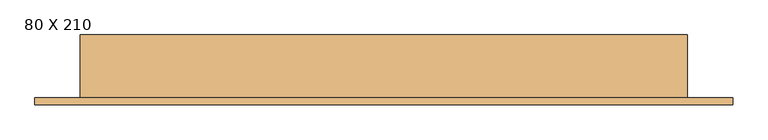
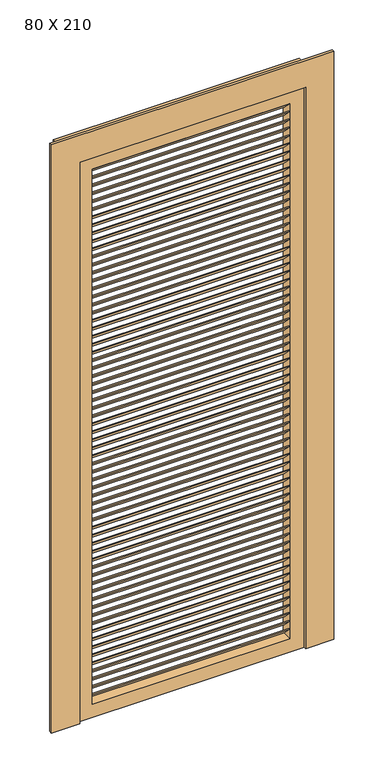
"""IFC4 building model written with IfcOpenShell, lengths in millimetres: door geometry, PORTA VENEZIANA DE ABRIR PARA FORA - 1 FOLHA : 80 X 210."""

import ifcopenshell
import ifcopenshell.guid

model = None  # the IFC model being written
_history = None  # IfcOwnerHistory: only IFC2X3 demands one
_inside = {}  # id of a spatial element -> (the spatial element, [elements in it])
_under = {}  # id of a project, library or spatial element -> (it, [spatial elements below it])
_declared = {}  # id of a project -> (the project, [libraries it declares])
_typed = {}  # id of a type object -> (the type object, [elements of that type])
_made_of = {}  # id of a material, layer set ... -> (it, [elements and type objects made of it])


def new_model(schema):
    """Start an empty IFC model of exactly this schema.

    Asked for "IFC4X3", IfcOpenShell would pick the latest addendum, in which some entities
    have other attributes; the version numbers below select the first issue.
    IFC2X3 requires an IfcOwnerHistory on every rooted entity: one is made here for all.
    """
    global model, _history
    if schema == "IFC4X3":
        model = ifcopenshell.file(schema_version=(4, 3, 0, 0))
    else:
        model = ifcopenshell.file(schema=schema)
    _inside.clear()
    _under.clear()
    _declared.clear()
    _typed.clear()
    _made_of.clear()
    _history = None
    if model.schema == "IFC2X3":
        org = make("IfcOrganization", Name="unknown")
        user = make(
            "IfcPersonAndOrganization",
            ThePerson=make("IfcPerson", FamilyName="unknown"),
            TheOrganization=org,
        )
        app = make(
            "IfcApplication",
            ApplicationDeveloper=org,
            Version="unknown",
            ApplicationFullName="unknown",
            ApplicationIdentifier="unknown",
        )
        _history = make(
            "IfcOwnerHistory",
            OwningUser=user,
            OwningApplication=app,
            ChangeAction="ADDED",
            CreationDate=0,
        )
    return model


def make(cls, **values):
    """One entity of the class cls with the attributes given. An attribute that is None is left unset."""
    return model.create_entity(
        cls, **{name: value for name, value in values.items() if value is not None}
    )


def rooted(cls, **values):
    """An entity with a GlobalId (a new one), such as an element, a storey or a relation."""
    return make(cls, GlobalId=ifcopenshell.guid.new(), OwnerHistory=_history, **values)


def si_unit(unit_type, name, prefix=None):
    """IfcSIUnit, for example si_unit("LENGTHUNIT", "METRE", prefix="MILLI")."""
    return make("IfcSIUnit", UnitType=unit_type, Prefix=prefix, Name=name)


def assignment(units):
    """IfcUnitAssignment: the units of a project."""
    return None if units is None else make("IfcUnitAssignment", Units=units)


def point(xyz):
    """IfcCartesianPoint."""
    return None if xyz is None else make("IfcCartesianPoint", Coordinates=xyz)


def direction(xyz):
    """IfcDirection."""
    return None if xyz is None else make("IfcDirection", DirectionRatios=xyz)


def frame(location, z_axis=None, x_axis=None):
    """IfcAxis2Placement3D, a coordinate frame: its origin and axes. An axis left out is left unset."""
    return make(
        "IfcAxis2Placement3D",
        Location=point(location),
        Axis=direction(z_axis),
        RefDirection=direction(x_axis),
    )


def origin():
    """The frame at (0, 0, 0) with its axes left unset."""
    return frame((0.0, 0.0, 0.0))


def place(relative_to, where):
    """IfcLocalPlacement: puts the frame where relative to a parent placement (None: the world)."""
    return make(
        "IfcLocalPlacement", PlacementRelTo=relative_to, RelativePlacement=where
    )


def context(
    kind, dimensions, precision=None, world=None, true_north=None, identifier=None
):
    """IfcGeometricRepresentationContext, for example the 3D "Model" context."""
    return make(
        "IfcGeometricRepresentationContext",
        ContextIdentifier=identifier,
        ContextType=kind,
        CoordinateSpaceDimension=dimensions,
        Precision=precision,
        WorldCoordinateSystem=world,
        TrueNorth=true_north,
    )


def project(units=None, contexts=None):
    """IfcProject with its units and contexts."""
    return rooted(
        "IfcProject",
        Name="project",
        RepresentationContexts=contexts,
        UnitsInContext=assignment(units),
    )


def spatial(cls, under=None, at=None, **own):
    """A site, building, storey or space (cls), placed at a placement, below another one or the project."""
    s = rooted(cls, ObjectPlacement=at, **own)
    if under is not None:
        _under.setdefault(under.id(), (under, []))[1].append(s)
    return s


def polyline(points):
    """IfcPolyline through the points."""
    return make("IfcPolyline", Points=[point(p) for p in points])


def outline(outer, holes=None, kind="AREA"):
    """IfcArbitraryClosedProfileDef: a profile drawn as a closed curve; with holes, ...WithVoids."""
    if holes is None:
        return make("IfcArbitraryClosedProfileDef", ProfileType=kind, OuterCurve=outer)
    return make(
        "IfcArbitraryProfileDefWithVoids",
        ProfileType=kind,
        OuterCurve=outer,
        InnerCurves=holes,
    )


def extrude(swept, where, along, depth):
    """IfcExtrudedAreaSolid: the profile swept, set in the frame where, extruded along a direction by depth."""
    return make(
        "IfcExtrudedAreaSolid",
        SweptArea=swept,
        Position=where,
        ExtrudedDirection=direction(along),
        Depth=depth,
    )


def shape(context_of_items, identifier, shape_type, items):
    """IfcShapeRepresentation: the items that make up one representation, for example the "Body"."""
    return make(
        "IfcShapeRepresentation",
        ContextOfItems=context_of_items,
        RepresentationIdentifier=identifier,
        RepresentationType=shape_type,
        Items=items,
    )


def source(mapping_origin, context_of_items, identifier, shape_type, items):
    """IfcRepresentationMap: a shape defined once, which mapped items show again and again."""
    return make(
        "IfcRepresentationMap",
        MappingOrigin=mapping_origin,
        MappedRepresentation=shape(context_of_items, identifier, shape_type, items),
    )


def transform(
    local_origin,
    x_axis=None,
    y_axis=None,
    z_axis=None,
    scale=None,
    scale2=None,
    scale3=None,
    uniform=True,
):
    """IfcCartesianTransformationOperator3D, or its non-uniform kind. x_axis, y_axis, z_axis: its Axis1, 2, 3."""
    if uniform:
        return make(
            "IfcCartesianTransformationOperator3D",
            Axis1=direction(x_axis),
            Axis2=direction(y_axis),
            LocalOrigin=point(local_origin),
            Scale=scale,
            Axis3=direction(z_axis),
        )
    return make(
        "IfcCartesianTransformationOperator3DnonUniform",
        Axis1=direction(x_axis),
        Axis2=direction(y_axis),
        LocalOrigin=point(local_origin),
        Scale=scale,
        Axis3=direction(z_axis),
        Scale2=scale2,
        Scale3=scale3,
    )


def mapped(mapping_source, mapping_target):
    """IfcMappedItem: shows the shape of a source again, moved by a transform."""
    return make(
        "IfcMappedItem", MappingSource=mapping_source, MappingTarget=mapping_target
    )


def made_of(thing, what):
    """Note that an element or type object is made of a material, layer set ...; save() writes the relation."""
    if what is not None:
        _made_of.setdefault(what.id(), (what, []))[1].append(thing)
    return thing


def element(
    cls,
    number,
    at=None,
    inside=None,
    cuts=None,
    type_object=None,
    material=None,
    context=None,
    identifier="Body",
    shape_type=None,
    held_by="IfcProductDefinitionShape",
    body=None,
    shapes=None,
    **own,
):
    """One element of the class cls, such as IfcWall. Its Tag is "e" and its number.

    at: its placement. inside: the storey or other place that contains it. cuts: it is an
    opening in that element (IfcRelVoidsElement). A single representation is given by context,
    identifier, shape_type and body (its items); several are given by shapes. held_by: the class
    of the entity that holds the representations. save() writes the other relations.
    """
    e = rooted(cls, Tag="e%d" % number, ObjectPlacement=at, **own)
    if body is not None:
        shapes = [shape(context, identifier, shape_type, body)]
    if shapes is not None:
        e.Representation = make(held_by, Representations=shapes)
    if inside is not None:
        _inside.setdefault(inside.id(), (inside, []))[1].append(e)
    if cuts is not None:
        rooted(
            "IfcRelVoidsElement", RelatingBuildingElement=cuts, RelatedOpeningElement=e
        )
    if type_object is not None:
        _typed.setdefault(type_object.id(), (type_object, []))[1].append(e)
    return made_of(e, material)


def aggregate(whole, parts):
    """IfcRelAggregates: a whole, such as a stair, and the parts it consists of."""
    return rooted("IfcRelAggregates", RelatingObject=whole, RelatedObjects=parts)


def save(model, path):
    """Write the relations noted so far, then the file.

    IfcRelAggregates (storeys below a building ...), IfcRelContainedInSpatialStructure (elements
    in a storey), IfcRelDefinesByType, IfcRelAssociatesMaterial and IfcRelDeclares: one each for
    every whole, place, type object, material and project.
    """
    for whole, parts in _under.values():
        aggregate(whole, parts)
    for where, things in _inside.values():
        rooted(
            "IfcRelContainedInSpatialStructure",
            RelatedElements=things,
            RelatingStructure=where,
        )
    for kind, things in _typed.values():
        rooted("IfcRelDefinesByType", RelatedObjects=things, RelatingType=kind)
    for what, things in _made_of.values():
        rooted("IfcRelAssociatesMaterial", RelatedObjects=things, RelatingMaterial=what)
    for by, libraries in _declared.values():
        rooted("IfcRelDeclares", RelatingContext=by, RelatedDefinitions=libraries)
    model.write(path)


def door_80_x_210_b93372b0(model_context):
    return source(origin(), model_context, "Body", "SweptSolid", [
        extrude(outline(polyline([(-40.0, 1985.2272727), (-75.0, 2020.2272727), (-70.0, 2020.2272727), (-35.0, 1985.2272727), (-40.0, 1985.2272727)])), frame((-270.0, 0.0, 0.0), z_axis=(1.0, 0.0, 0.0), x_axis=(0.0, 1.0, 0.0)), (0.0, 0.0, 1.0), 700.0),
        extrude(outline(polyline([(-40.0, 1955.4545455), (-75.0, 1990.4545455), (-70.0, 1990.4545455), (-35.0, 1955.4545455), (-40.0, 1955.4545455)])), frame((-270.0, 0.0, 0.0), z_axis=(1.0, 0.0, 0.0), x_axis=(0.0, 1.0, 0.0)), (0.0, 0.0, 1.0), 700.0),
        extrude(outline(polyline([(-40.0, 1925.6818182), (-75.0, 1960.6818182), (-70.0, 1960.6818182), (-35.0, 1925.6818182), (-40.0, 1925.6818182)])), frame((-270.0, 0.0, 0.0), z_axis=(1.0, 0.0, 0.0), x_axis=(0.0, 1.0, 0.0)), (0.0, 0.0, 1.0), 700.0),
        extrude(outline(polyline([(-40.0, 1895.9090909), (-75.0, 1930.9090909), (-70.0, 1930.9090909), (-35.0, 1895.9090909), (-40.0, 1895.9090909)])), frame((-270.0, 0.0, 0.0), z_axis=(1.0, 0.0, 0.0), x_axis=(0.0, 1.0, 0.0)), (0.0, 0.0, 1.0), 700.0),
        extrude(outline(polyline([(-40.0, 1866.1363636), (-75.0, 1901.1363636), (-70.0, 1901.1363636), (-35.0, 1866.1363636), (-40.0, 1866.1363636)])), frame((-270.0, 0.0, 0.0), z_axis=(1.0, 0.0, 0.0), x_axis=(0.0, 1.0, 0.0)), (0.0, 0.0, 1.0), 700.0),
        extrude(outline(polyline([(-40.0, 1836.3636364), (-75.0, 1871.3636364), (-70.0, 1871.3636364), (-35.0, 1836.3636364), (-40.0, 1836.3636364)])), frame((-270.0, 0.0, 0.0), z_axis=(1.0, 0.0, 0.0), x_axis=(0.0, 1.0, 0.0)), (0.0, 0.0, 1.0), 700.0),
        extrude(outline(polyline([(-40.0, 1806.5909091), (-75.0, 1841.5909091), (-70.0, 1841.5909091), (-35.0, 1806.5909091), (-40.0, 1806.5909091)])), frame((-270.0, 0.0, 0.0), z_axis=(1.0, 0.0, 0.0), x_axis=(0.0, 1.0, 0.0)), (0.0, 0.0, 1.0), 700.0),
        extrude(outline(polyline([(-40.0, 1776.8181818), (-75.0, 1811.8181818), (-70.0, 1811.8181818), (-35.0, 1776.8181818), (-40.0, 1776.8181818)])), frame((-270.0, 0.0, 0.0), z_axis=(1.0, 0.0, 0.0), x_axis=(0.0, 1.0, 0.0)), (0.0, 0.0, 1.0), 700.0),
        extrude(outline(polyline([(-40.0, 1747.0454545), (-75.0, 1782.0454545), (-70.0, 1782.0454545), (-35.0, 1747.0454545), (-40.0, 1747.0454545)])), frame((-270.0, 0.0, 0.0), z_axis=(1.0, 0.0, 0.0), x_axis=(0.0, 1.0, 0.0)), (0.0, 0.0, 1.0), 700.0),
        extrude(outline(polyline([(-40.0, 1717.2727273), (-75.0, 1752.2727273), (-70.0, 1752.2727273), (-35.0, 1717.2727273), (-40.0, 1717.2727273)])), frame((-270.0, 0.0, 0.0), z_axis=(1.0, 0.0, 0.0), x_axis=(0.0, 1.0, 0.0)), (0.0, 0.0, 1.0), 700.0),
        extrude(outline(polyline([(-40.0, 1687.5), (-75.0, 1722.5), (-70.0, 1722.5), (-35.0, 1687.5), (-40.0, 1687.5)])), frame((-270.0, 0.0, 0.0), z_axis=(1.0, 0.0, 0.0), x_axis=(0.0, 1.0, 0.0)), (0.0, 0.0, 1.0), 700.0),
        extrude(outline(polyline([(-40.0, 1657.7272727), (-75.0, 1692.7272727), (-70.0, 1692.7272727), (-35.0, 1657.7272727), (-40.0, 1657.7272727)])), frame((-270.0, 0.0, 0.0), z_axis=(1.0, 0.0, 0.0), x_axis=(0.0, 1.0, 0.0)), (0.0, 0.0, 1.0), 700.0),
        extrude(outline(polyline([(-40.0, 1627.9545455), (-75.0, 1662.9545455), (-70.0, 1662.9545455), (-35.0, 1627.9545455), (-40.0, 1627.9545455)])), frame((-270.0, 0.0, 0.0), z_axis=(1.0, 0.0, 0.0), x_axis=(0.0, 1.0, 0.0)), (0.0, 0.0, 1.0), 700.0),
        extrude(outline(polyline([(-40.0, 1598.1818182), (-75.0, 1633.1818182), (-70.0, 1633.1818182), (-35.0, 1598.1818182), (-40.0, 1598.1818182)])), frame((-270.0, 0.0, 0.0), z_axis=(1.0, 0.0, 0.0), x_axis=(0.0, 1.0, 0.0)), (0.0, 0.0, 1.0), 700.0),
        extrude(outline(polyline([(-40.0, 1568.4090909), (-75.0, 1603.4090909), (-70.0, 1603.4090909), (-35.0, 1568.4090909), (-40.0, 1568.4090909)])), frame((-270.0, 0.0, 0.0), z_axis=(1.0, 0.0, 0.0), x_axis=(0.0, 1.0, 0.0)), (0.0, 0.0, 1.0), 700.0),
        extrude(outline(polyline([(-40.0, 1538.6363636), (-75.0, 1573.6363636), (-70.0, 1573.6363636), (-35.0, 1538.6363636), (-40.0, 1538.6363636)])), frame((-270.0, 0.0, 0.0), z_axis=(1.0, 0.0, 0.0), x_axis=(0.0, 1.0, 0.0)), (0.0, 0.0, 1.0), 700.0),
        extrude(outline(polyline([(-40.0, 1508.8636364), (-75.0, 1543.8636364), (-70.0, 1543.8636364), (-35.0, 1508.8636364), (-40.0, 1508.8636364)])), frame((-270.0, 0.0, 0.0), z_axis=(1.0, 0.0, 0.0), x_axis=(0.0, 1.0, 0.0)), (0.0, 0.0, 1.0), 700.0),
        extrude(outline(polyline([(-40.0, 1479.0909091), (-75.0, 1514.0909091), (-70.0, 1514.0909091), (-35.0, 1479.0909091), (-40.0, 1479.0909091)])), frame((-270.0, 0.0, 0.0), z_axis=(1.0, 0.0, 0.0), x_axis=(0.0, 1.0, 0.0)), (0.0, 0.0, 1.0), 700.0),
        extrude(outline(polyline([(-40.0, 1449.3181818), (-75.0, 1484.3181818), (-70.0, 1484.3181818), (-35.0, 1449.3181818), (-40.0, 1449.3181818)])), frame((-270.0, 0.0, 0.0), z_axis=(1.0, 0.0, 0.0), x_axis=(0.0, 1.0, 0.0)), (0.0, 0.0, 1.0), 700.0),
        extrude(outline(polyline([(-40.0, 1419.5454545), (-75.0, 1454.5454545), (-70.0, 1454.5454545), (-35.0, 1419.5454545), (-40.0, 1419.5454545)])), frame((-270.0, 0.0, 0.0), z_axis=(1.0, 0.0, 0.0), x_axis=(0.0, 1.0, 0.0)), (0.0, 0.0, 1.0), 700.0),
        extrude(outline(polyline([(-40.0, 1389.7727273), (-75.0, 1424.7727273), (-70.0, 1424.7727273), (-35.0, 1389.7727273), (-40.0, 1389.7727273)])), frame((-270.0, 0.0, 0.0), z_axis=(1.0, 0.0, 0.0), x_axis=(0.0, 1.0, 0.0)), (0.0, 0.0, 1.0), 700.0),
        extrude(outline(polyline([(-40.0, 1360.0), (-75.0, 1395.0), (-70.0, 1395.0), (-35.0, 1360.0), (-40.0, 1360.0)])), frame((-270.0, 0.0, 0.0), z_axis=(1.0, 0.0, 0.0), x_axis=(0.0, 1.0, 0.0)), (0.0, 0.0, 1.0), 700.0),
        extrude(outline(polyline([(-40.0, 1330.2272727), (-75.0, 1365.2272727), (-70.0, 1365.2272727), (-35.0, 1330.2272727), (-40.0, 1330.2272727)])), frame((-270.0, 0.0, 0.0), z_axis=(1.0, 0.0, 0.0), x_axis=(0.0, 1.0, 0.0)), (0.0, 0.0, 1.0), 700.0),
        extrude(outline(polyline([(-40.0, 1300.4545455), (-75.0, 1335.4545455), (-70.0, 1335.4545455), (-35.0, 1300.4545455), (-40.0, 1300.4545455)])), frame((-270.0, 0.0, 0.0), z_axis=(1.0, 0.0, 0.0), x_axis=(0.0, 1.0, 0.0)), (0.0, 0.0, 1.0), 700.0),
        extrude(outline(polyline([(-40.0, 1270.6818182), (-75.0, 1305.6818182), (-70.0, 1305.6818182), (-35.0, 1270.6818182), (-40.0, 1270.6818182)])), frame((-270.0, 0.0, 0.0), z_axis=(1.0, 0.0, 0.0), x_axis=(0.0, 1.0, 0.0)), (0.0, 0.0, 1.0), 700.0),
        extrude(outline(polyline([(-40.0, 1240.9090909), (-75.0, 1275.9090909), (-70.0, 1275.9090909), (-35.0, 1240.9090909), (-40.0, 1240.9090909)])), frame((-270.0, 0.0, 0.0), z_axis=(1.0, 0.0, 0.0), x_axis=(0.0, 1.0, 0.0)), (0.0, 0.0, 1.0), 700.0),
        extrude(outline(polyline([(-40.0, 1211.1363636), (-75.0, 1246.1363636), (-70.0, 1246.1363636), (-35.0, 1211.1363636), (-40.0, 1211.1363636)])), frame((-270.0, 0.0, 0.0), z_axis=(1.0, 0.0, 0.0), x_axis=(0.0, 1.0, 0.0)), (0.0, 0.0, 1.0), 700.0),
        extrude(outline(polyline([(-40.0, 1181.3636364), (-75.0, 1216.3636364), (-70.0, 1216.3636364), (-35.0, 1181.3636364), (-40.0, 1181.3636364)])), frame((-270.0, 0.0, 0.0), z_axis=(1.0, 0.0, 0.0), x_axis=(0.0, 1.0, 0.0)), (0.0, 0.0, 1.0), 700.0),
        extrude(outline(polyline([(-40.0, 1151.5909091), (-75.0, 1186.5909091), (-70.0, 1186.5909091), (-35.0, 1151.5909091), (-40.0, 1151.5909091)])), frame((-270.0, 0.0, 0.0), z_axis=(1.0, 0.0, 0.0), x_axis=(0.0, 1.0, 0.0)), (0.0, 0.0, 1.0), 700.0),
        extrude(outline(polyline([(-40.0, 1121.8181818), (-75.0, 1156.8181818), (-70.0, 1156.8181818), (-35.0, 1121.8181818), (-40.0, 1121.8181818)])), frame((-270.0, 0.0, 0.0), z_axis=(1.0, 0.0, 0.0), x_axis=(0.0, 1.0, 0.0)), (0.0, 0.0, 1.0), 700.0),
        extrude(outline(polyline([(-40.0, 1092.0454545), (-75.0, 1127.0454545), (-70.0, 1127.0454545), (-35.0, 1092.0454545), (-40.0, 1092.0454545)])), frame((-270.0, 0.0, 0.0), z_axis=(1.0, 0.0, 0.0), x_axis=(0.0, 1.0, 0.0)), (0.0, 0.0, 1.0), 700.0),
        extrude(outline(polyline([(-40.0, 1062.2727273), (-75.0, 1097.2727273), (-70.0, 1097.2727273), (-35.0, 1062.2727273), (-40.0, 1062.2727273)])), frame((-270.0, 0.0, 0.0), z_axis=(1.0, 0.0, 0.0), x_axis=(0.0, 1.0, 0.0)), (0.0, 0.0, 1.0), 700.0),
        extrude(outline(polyline([(-40.0, 1032.5), (-75.0, 1067.5), (-70.0, 1067.5), (-35.0, 1032.5), (-40.0, 1032.5)])), frame((-270.0, 0.0, 0.0), z_axis=(1.0, 0.0, 0.0), x_axis=(0.0, 1.0, 0.0)), (0.0, 0.0, 1.0), 700.0),
        extrude(outline(polyline([(-40.0, 1002.7272727), (-75.0, 1037.7272727), (-70.0, 1037.7272727), (-35.0, 1002.7272727), (-40.0, 1002.7272727)])), frame((-270.0, 0.0, 0.0), z_axis=(1.0, 0.0, 0.0), x_axis=(0.0, 1.0, 0.0)), (0.0, 0.0, 1.0), 700.0),
        extrude(outline(polyline([(-40.0, 972.9545455), (-75.0, 1007.9545455), (-70.0, 1007.9545455), (-35.0, 972.9545455), (-40.0, 972.9545455)])), frame((-270.0, 0.0, 0.0), z_axis=(1.0, 0.0, 0.0), x_axis=(0.0, 1.0, 0.0)), (0.0, 0.0, 1.0), 700.0),
        extrude(outline(polyline([(-40.0, 943.1818182), (-75.0, 978.1818182), (-70.0, 978.1818182), (-35.0, 943.1818182), (-40.0, 943.1818182)])), frame((-270.0, 0.0, 0.0), z_axis=(1.0, 0.0, 0.0), x_axis=(0.0, 1.0, 0.0)), (0.0, 0.0, 1.0), 700.0),
        extrude(outline(polyline([(-40.0, 913.4090909), (-75.0, 948.4090909), (-70.0, 948.4090909), (-35.0, 913.4090909), (-40.0, 913.4090909)])), frame((-270.0, 0.0, 0.0), z_axis=(1.0, 0.0, 0.0), x_axis=(0.0, 1.0, 0.0)), (0.0, 0.0, 1.0), 700.0),
        extrude(outline(polyline([(-40.0, 883.6363636), (-75.0, 918.6363636), (-70.0, 918.6363636), (-35.0, 883.6363636), (-40.0, 883.6363636)])), frame((-270.0, 0.0, 0.0), z_axis=(1.0, 0.0, 0.0), x_axis=(0.0, 1.0, 0.0)), (0.0, 0.0, 1.0), 700.0),
        extrude(outline(polyline([(-40.0, 853.8636364), (-75.0, 888.8636364), (-70.0, 888.8636364), (-35.0, 853.8636364), (-40.0, 853.8636364)])), frame((-270.0, 0.0, 0.0), z_axis=(1.0, 0.0, 0.0), x_axis=(0.0, 1.0, 0.0)), (0.0, 0.0, 1.0), 700.0),
        extrude(outline(polyline([(-40.0, 824.0909091), (-75.0, 859.0909091), (-70.0, 859.0909091), (-35.0, 824.0909091), (-40.0, 824.0909091)])), frame((-270.0, 0.0, 0.0), z_axis=(1.0, 0.0, 0.0), x_axis=(0.0, 1.0, 0.0)), (0.0, 0.0, 1.0), 700.0),
        extrude(outline(polyline([(-40.0, 794.3181818), (-75.0, 829.3181818), (-70.0, 829.3181818), (-35.0, 794.3181818), (-40.0, 794.3181818)])), frame((-270.0, 0.0, 0.0), z_axis=(1.0, 0.0, 0.0), x_axis=(0.0, 1.0, 0.0)), (0.0, 0.0, 1.0), 700.0),
        extrude(outline(polyline([(-40.0, 764.5454545), (-75.0, 799.5454545), (-70.0, 799.5454545), (-35.0, 764.5454545), (-40.0, 764.5454545)])), frame((-270.0, 0.0, 0.0), z_axis=(1.0, 0.0, 0.0), x_axis=(0.0, 1.0, 0.0)), (0.0, 0.0, 1.0), 700.0),
        extrude(outline(polyline([(-40.0, 734.7727273), (-75.0, 769.7727273), (-70.0, 769.7727273), (-35.0, 734.7727273), (-40.0, 734.7727273)])), frame((-270.0, 0.0, 0.0), z_axis=(1.0, 0.0, 0.0), x_axis=(0.0, 1.0, 0.0)), (0.0, 0.0, 1.0), 700.0),
        extrude(outline(polyline([(-40.0, 705.0), (-75.0, 740.0), (-70.0, 740.0), (-35.0, 705.0), (-40.0, 705.0)])), frame((-270.0, 0.0, 0.0), z_axis=(1.0, 0.0, 0.0), x_axis=(0.0, 1.0, 0.0)), (0.0, 0.0, 1.0), 700.0),
        extrude(outline(polyline([(-40.0, 675.2272727), (-75.0, 710.2272727), (-70.0, 710.2272727), (-35.0, 675.2272727), (-40.0, 675.2272727)])), frame((-270.0, 0.0, 0.0), z_axis=(1.0, 0.0, 0.0), x_axis=(0.0, 1.0, 0.0)), (0.0, 0.0, 1.0), 700.0),
        extrude(outline(polyline([(-40.0, 645.4545455), (-75.0, 680.4545455), (-70.0, 680.4545455), (-35.0, 645.4545455), (-40.0, 645.4545455)])), frame((-270.0, 0.0, 0.0), z_axis=(1.0, 0.0, 0.0), x_axis=(0.0, 1.0, 0.0)), (0.0, 0.0, 1.0), 700.0),
        extrude(outline(polyline([(-40.0, 615.6818182), (-75.0, 650.6818182), (-70.0, 650.6818182), (-35.0, 615.6818182), (-40.0, 615.6818182)])), frame((-270.0, 0.0, 0.0), z_axis=(1.0, 0.0, 0.0), x_axis=(0.0, 1.0, 0.0)), (0.0, 0.0, 1.0), 700.0),
        extrude(outline(polyline([(-40.0, 585.9090909), (-75.0, 620.9090909), (-70.0, 620.9090909), (-35.0, 585.9090909), (-40.0, 585.9090909)])), frame((-270.0, 0.0, 0.0), z_axis=(1.0, 0.0, 0.0), x_axis=(0.0, 1.0, 0.0)), (0.0, 0.0, 1.0), 700.0),
        extrude(outline(polyline([(-40.0, 556.1363636), (-75.0, 591.1363636), (-70.0, 591.1363636), (-35.0, 556.1363636), (-40.0, 556.1363636)])), frame((-270.0, 0.0, 0.0), z_axis=(1.0, 0.0, 0.0), x_axis=(0.0, 1.0, 0.0)), (0.0, 0.0, 1.0), 700.0),
        extrude(outline(polyline([(-40.0, 526.3636364), (-75.0, 561.3636364), (-70.0, 561.3636364), (-35.0, 526.3636364), (-40.0, 526.3636364)])), frame((-270.0, 0.0, 0.0), z_axis=(1.0, 0.0, 0.0), x_axis=(0.0, 1.0, 0.0)), (0.0, 0.0, 1.0), 700.0),
        extrude(outline(polyline([(-40.0, 496.5909091), (-75.0, 531.5909091), (-70.0, 531.5909091), (-35.0, 496.5909091), (-40.0, 496.5909091)])), frame((-270.0, 0.0, 0.0), z_axis=(1.0, 0.0, 0.0), x_axis=(0.0, 1.0, 0.0)), (0.0, 0.0, 1.0), 700.0),
        extrude(outline(polyline([(-40.0, 466.8181818), (-75.0, 501.8181818), (-70.0, 501.8181818), (-35.0, 466.8181818), (-40.0, 466.8181818)])), frame((-270.0, 0.0, 0.0), z_axis=(1.0, 0.0, 0.0), x_axis=(0.0, 1.0, 0.0)), (0.0, 0.0, 1.0), 700.0),
        extrude(outline(polyline([(-40.0, 437.0454545), (-75.0, 472.0454545), (-70.0, 472.0454545), (-35.0, 437.0454545), (-40.0, 437.0454545)])), frame((-270.0, 0.0, 0.0), z_axis=(1.0, 0.0, 0.0), x_axis=(0.0, 1.0, 0.0)), (0.0, 0.0, 1.0), 700.0),
        extrude(outline(polyline([(-40.0, 407.2727273), (-75.0, 442.2727273), (-70.0, 442.2727273), (-35.0, 407.2727273), (-40.0, 407.2727273)])), frame((-270.0, 0.0, 0.0), z_axis=(1.0, 0.0, 0.0), x_axis=(0.0, 1.0, 0.0)), (0.0, 0.0, 1.0), 700.0),
        extrude(outline(polyline([(-40.0, 377.5), (-75.0, 412.5), (-70.0, 412.5), (-35.0, 377.5), (-40.0, 377.5)])), frame((-270.0, 0.0, 0.0), z_axis=(1.0, 0.0, 0.0), x_axis=(0.0, 1.0, 0.0)), (0.0, 0.0, 1.0), 700.0),
        extrude(outline(polyline([(-40.0, 347.7272727), (-75.0, 382.7272727), (-70.0, 382.7272727), (-35.0, 347.7272727), (-40.0, 347.7272727)])), frame((-270.0, 0.0, 0.0), z_axis=(1.0, 0.0, 0.0), x_axis=(0.0, 1.0, 0.0)), (0.0, 0.0, 1.0), 700.0),
        extrude(outline(polyline([(-40.0, 317.9545455), (-75.0, 352.9545455), (-70.0, 352.9545455), (-35.0, 317.9545455), (-40.0, 317.9545455)])), frame((-270.0, 0.0, 0.0), z_axis=(1.0, 0.0, 0.0), x_axis=(0.0, 1.0, 0.0)), (0.0, 0.0, 1.0), 700.0),
        extrude(outline(polyline([(-40.0, 288.1818182), (-75.0, 323.1818182), (-70.0, 323.1818182), (-35.0, 288.1818182), (-40.0, 288.1818182)])), frame((-270.0, 0.0, 0.0), z_axis=(1.0, 0.0, 0.0), x_axis=(0.0, 1.0, 0.0)), (0.0, 0.0, 1.0), 700.0),
        extrude(outline(polyline([(-40.0, 258.4090909), (-75.0, 293.4090909), (-70.0, 293.4090909), (-35.0, 258.4090909), (-40.0, 258.4090909)])), frame((-270.0, 0.0, 0.0), z_axis=(1.0, 0.0, 0.0), x_axis=(0.0, 1.0, 0.0)), (0.0, 0.0, 1.0), 700.0),
        extrude(outline(polyline([(-40.0, 228.6363636), (-75.0, 263.6363636), (-70.0, 263.6363636), (-35.0, 228.6363636), (-40.0, 228.6363636)])), frame((-270.0, 0.0, 0.0), z_axis=(1.0, 0.0, 0.0), x_axis=(0.0, 1.0, 0.0)), (0.0, 0.0, 1.0), 700.0),
        extrude(outline(polyline([(-40.0, 198.8636364), (-75.0, 233.8636364), (-70.0, 233.8636364), (-35.0, 198.8636364), (-40.0, 198.8636364)])), frame((-270.0, 0.0, 0.0), z_axis=(1.0, 0.0, 0.0), x_axis=(0.0, 1.0, 0.0)), (0.0, 0.0, 1.0), 700.0),
        extrude(outline(polyline([(-40.0, 169.0909091), (-75.0, 204.0909091), (-70.0, 204.0909091), (-35.0, 169.0909091), (-40.0, 169.0909091)])), frame((-270.0, 0.0, 0.0), z_axis=(1.0, 0.0, 0.0), x_axis=(0.0, 1.0, 0.0)), (0.0, 0.0, 1.0), 700.0),
        extrude(outline(polyline([(-40.0, 139.3181818), (-75.0, 174.3181818), (-70.0, 174.3181818), (-35.0, 139.3181818), (-40.0, 139.3181818)])), frame((-270.0, 0.0, 0.0), z_axis=(1.0, 0.0, 0.0), x_axis=(0.0, 1.0, 0.0)), (0.0, 0.0, 1.0), 700.0),
        extrude(outline(polyline([(-40.0, 109.5454545), (-75.0, 144.5454545), (-70.0, 144.5454545), (-35.0, 109.5454545), (-40.0, 109.5454545)])), frame((-270.0, 0.0, 0.0), z_axis=(1.0, 0.0, 0.0), x_axis=(0.0, 1.0, 0.0)), (0.0, 0.0, 1.0), 700.0),
        extrude(outline(polyline([(-40.0, 79.7727273), (-75.0, 114.7727273), (-70.0, 114.7727273), (-35.0, 79.7727273), (-40.0, 79.7727273)])), frame((-270.0, 0.0, 0.0), z_axis=(1.0, 0.0, 0.0), x_axis=(0.0, 1.0, 0.0)), (0.0, 0.0, 1.0), 700.0),
        extrude(outline(polyline([(-40.0, 2015.0), (-75.0, 2050.0), (-70.0, 2050.0), (-35.0, 2015.0), (-40.0, 2015.0)])), frame((-270.0, 0.0, 0.0), z_axis=(1.0, 0.0, 0.0), x_axis=(0.0, 1.0, 0.0)), (0.0, 0.0, 1.0), 700.0),
        extrude(outline(polyline([(-40.0, 50.0), (-75.0, 85.0), (-70.0, 85.0), (-35.0, 50.0), (-40.0, 50.0)])), frame((-270.0, 0.0, 0.0), z_axis=(1.0, 0.0, 0.0), x_axis=(0.0, 1.0, 0.0)), (0.0, 0.0, 1.0), 700.0),
        extrude(outline(polyline([(2100.0, 480.0), (2100.0, -320.0), (0.0, -320.0), (0.0, 480.0), (2100.0, 480.0)]), holes=[polyline([(2050.0, 430.0), (50.0, 430.0), (50.0, -270.0), (2050.0, -270.0), (2050.0, 430.0)])]), frame((0.0, -75.0, 0.0), z_axis=(0.0, 1.0, 0.0), x_axis=(0.0, 0.0, 1.0)), (0.0, 0.0, 1.0), 40.0),
        extrude(outline(polyline([(2100.0, -320.0), (2100.0, 480.0), (0.0, 480.0), (0.0, 580.0), (2200.0, 580.0), (2200.0, -420.0), (0.0, -420.0), (0.0, -320.0), (2100.0, -320.0)])), frame((0.0, -85.0, 0.0), z_axis=(0.0, 1.0, 0.0), x_axis=(0.0, 0.0, 1.0)), (0.0, 0.0, 1.0), 10.0),
        extrude(outline(polyline([(0.0, -355.0), (0.0, -320.0), (2100.0, -320.0), (2100.0, 480.0), (0.0, 480.0), (0.0, 515.0), (2135.0, 515.0), (2135.0, -355.0), (0.0, -355.0)])), frame((0.0, -75.0, 0.0), z_axis=(0.0, 1.0, 0.0), x_axis=(0.0, 0.0, 1.0)), (0.0, 0.0, 1.0), 90.0),
    ])


if __name__ == "__main__":
    model = new_model("IFC4")
    model_context = context("Model", 3, world=origin())
    ifc_project = project(units=[si_unit("LENGTHUNIT", "METRE", prefix="MILLI")], contexts=[model_context])
    site = spatial("IfcSite", under=ifc_project)
    building = spatial("IfcBuilding", under=site)
    placement = place(None, origin())
    door_80_x_210_shape = door_80_x_210_b93372b0(model_context)
    element("IfcDoor", 1, ObjectType="PORTA VENEZIANA DE ABRIR PARA FORA - 1 FOLHA : 80 X 210", at=placement, inside=building, context=model_context, shape_type="MappedRepresentation", body=[
        mapped(door_80_x_210_shape, transform((0.0, 0.0, 0.0), x_axis=(1.0, 0.0, 0.0), y_axis=(0.0, 1.0, 0.0), z_axis=(0.0, 0.0, 1.0))),
    ])
    save(model, "model.ifc")
